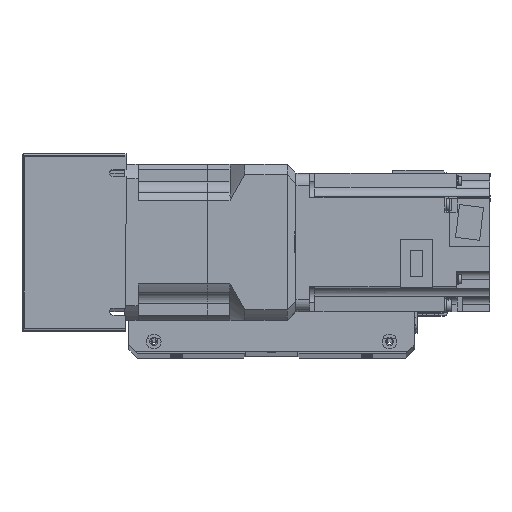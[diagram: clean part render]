
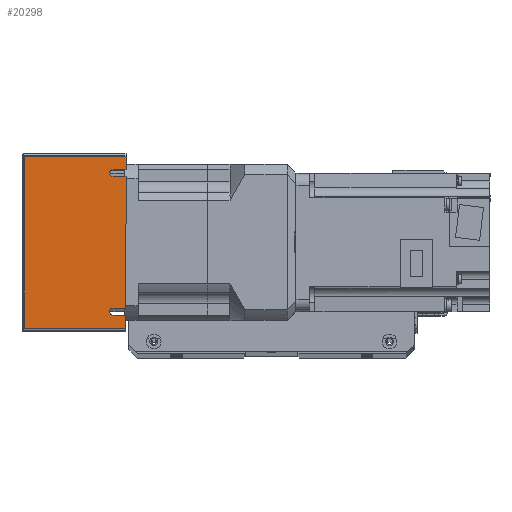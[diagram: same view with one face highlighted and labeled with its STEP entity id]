
A CAD part, top view. The second image highlights one B-rep face of the part: STEP entity #20298.
In plain terms, the highlighted planar face has unit normal (0, 0, 1) as drawn and (-1, 0, 0) by its records, which use the part's own axes.
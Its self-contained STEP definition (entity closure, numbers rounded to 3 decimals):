
#595=PLANE('',#22132);
#1683=LINE('',#32607,#3343);
#1689=LINE('',#32621,#3349);
#1701=LINE('',#32648,#3361);
#1711=LINE('',#32670,#3371);
#1719=LINE('',#32690,#3379);
#1720=LINE('',#32692,#3380);
#1721=LINE('',#32694,#3381);
#1722=LINE('',#32696,#3382);
#1723=LINE('',#32697,#3383);
#1724=LINE('',#32699,#3384);
#3343=VECTOR('',#26404,10.);
#3349=VECTOR('',#26414,10.);
#3361=VECTOR('',#26432,10.);
#3371=VECTOR('',#26446,10.);
#3379=VECTOR('',#26468,10.);
#3380=VECTOR('',#26469,10.);
#3381=VECTOR('',#26470,10.);
#3382=VECTOR('',#26471,10.);
#3383=VECTOR('',#26472,10.);
#3384=VECTOR('',#26475,10.);
#5417=FACE_OUTER_BOUND('',#6897,.T.);
#6897=EDGE_LOOP('',(#16354,#16355,#16356,#16357,#16358,#16359,#16360,#16361,
#16362,#16363,#16364,#16365));
#8353=CIRCLE('',#22127,2.);
#8357=CIRCLE('',#22133,2.);
#9810=VERTEX_POINT('',#32604);
#9811=VERTEX_POINT('',#32606);
#9816=VERTEX_POINT('',#32619);
#9817=VERTEX_POINT('',#32620);
#9828=VERTEX_POINT('',#32646);
#9829=VERTEX_POINT('',#32647);
#9838=VERTEX_POINT('',#32667);
#9839=VERTEX_POINT('',#32669);
#9844=VERTEX_POINT('',#32689);
#9845=VERTEX_POINT('',#32691);
#9846=VERTEX_POINT('',#32693);
#9847=VERTEX_POINT('',#32695);
#12181=EDGE_CURVE('',#9811,#9810,#1683,.T.);
#12187=EDGE_CURVE('',#9816,#9817,#1689,.T.);
#12199=EDGE_CURVE('',#9828,#9829,#1701,.T.);
#12209=EDGE_CURVE('',#9839,#9838,#1711,.T.);
#12211=EDGE_CURVE('',#9817,#9811,#8353,.T.);
#12221=EDGE_CURVE('',#9844,#9810,#1719,.T.);
#12222=EDGE_CURVE('',#9845,#9844,#1720,.T.);
#12223=EDGE_CURVE('',#9846,#9845,#1721,.T.);
#12224=EDGE_CURVE('',#9847,#9846,#1722,.T.);
#12225=EDGE_CURVE('',#9828,#9847,#1723,.T.);
#12226=EDGE_CURVE('',#9829,#9839,#8357,.T.);
#12227=EDGE_CURVE('',#9816,#9838,#1724,.T.);
#16354=ORIENTED_EDGE('',*,*,#12181,.T.);
#16355=ORIENTED_EDGE('',*,*,#12221,.F.);
#16356=ORIENTED_EDGE('',*,*,#12222,.F.);
#16357=ORIENTED_EDGE('',*,*,#12223,.F.);
#16358=ORIENTED_EDGE('',*,*,#12224,.F.);
#16359=ORIENTED_EDGE('',*,*,#12225,.F.);
#16360=ORIENTED_EDGE('',*,*,#12199,.T.);
#16361=ORIENTED_EDGE('',*,*,#12226,.T.);
#16362=ORIENTED_EDGE('',*,*,#12209,.T.);
#16363=ORIENTED_EDGE('',*,*,#12227,.F.);
#16364=ORIENTED_EDGE('',*,*,#12187,.T.);
#16365=ORIENTED_EDGE('',*,*,#12211,.T.);
#20298=ADVANCED_FACE('',(#5417),#595,.T.);
#22127=AXIS2_PLACEMENT_3D('',#32673,#26450,#26451);
#22132=AXIS2_PLACEMENT_3D('',#32688,#26466,#26467);
#22133=AXIS2_PLACEMENT_3D('',#32698,#26473,#26474);
#26404=DIRECTION('',(0.,0.,1.));
#26414=DIRECTION('',(0.,0.,-1.));
#26432=DIRECTION('',(0.,0.,-1.));
#26446=DIRECTION('',(0.,0.,1.));
#26450=DIRECTION('center_axis',(1.,0.,0.));
#26451=DIRECTION('ref_axis',(0.,0.,-1.));
#26466=DIRECTION('center_axis',(-1.,0.,0.));
#26467=DIRECTION('ref_axis',(0.,-1.,0.));
#26468=DIRECTION('',(0.,-1.,0.));
#26469=DIRECTION('',(0.,0.,1.));
#26470=DIRECTION('',(0.,1.,0.));
#26471=DIRECTION('',(0.,0.,-1.));
#26472=DIRECTION('',(0.,-1.,0.));
#26473=DIRECTION('center_axis',(1.,0.,0.));
#26474=DIRECTION('ref_axis',(0.,0.,-1.));
#26475=DIRECTION('',(0.,-1.,0.));
#32604=CARTESIAN_POINT('',(-120.5,42.,30.));
#32606=CARTESIAN_POINT('',(-120.5,42.,22.5));
#32607=CARTESIAN_POINT('',(-120.5,42.,16.304));
#32619=CARTESIAN_POINT('',(-120.5,38.,30.));
#32620=CARTESIAN_POINT('',(-120.5,38.,22.5));
#32621=CARTESIAN_POINT('',(-120.5,38.,11.25));
#32646=CARTESIAN_POINT('',(-120.5,-42.,30.));
#32647=CARTESIAN_POINT('',(-120.5,-42.,22.5));
#32648=CARTESIAN_POINT('',(-120.5,-42.,11.25));
#32667=CARTESIAN_POINT('',(-120.5,-38.,30.));
#32669=CARTESIAN_POINT('',(-120.5,-38.,22.5));
#32670=CARTESIAN_POINT('',(-120.5,-38.,16.169));
#32673=CARTESIAN_POINT('Origin',(-120.5,40.,22.5));
#32688=CARTESIAN_POINT('Origin',(-120.5,51.,0.));
#32689=CARTESIAN_POINT('',(-120.5,50.,30.));
#32690=CARTESIAN_POINT('',(-120.5,-51.,30.));
#32691=CARTESIAN_POINT('',(-120.5,50.,-29.));
#32692=CARTESIAN_POINT('',(-120.5,50.,0.));
#32693=CARTESIAN_POINT('',(-120.5,-50.,-29.));
#32694=CARTESIAN_POINT('',(-120.5,25.5,-29.));
#32695=CARTESIAN_POINT('',(-120.5,-50.,30.));
#32696=CARTESIAN_POINT('',(-120.5,-50.,0.));
#32697=CARTESIAN_POINT('',(-120.5,-51.,30.));
#32698=CARTESIAN_POINT('Origin',(-120.5,-40.,22.5));
#32699=CARTESIAN_POINT('',(-120.5,-51.,30.));
